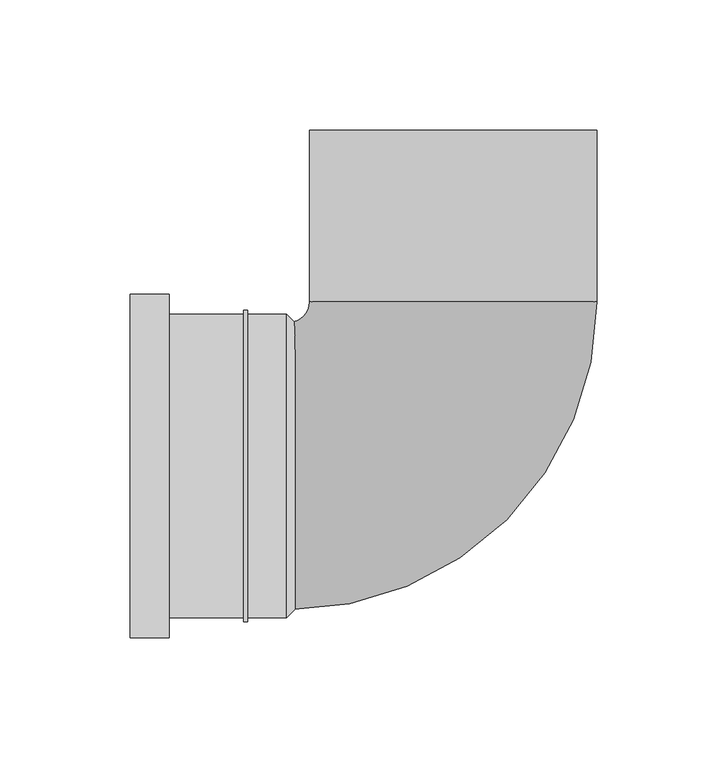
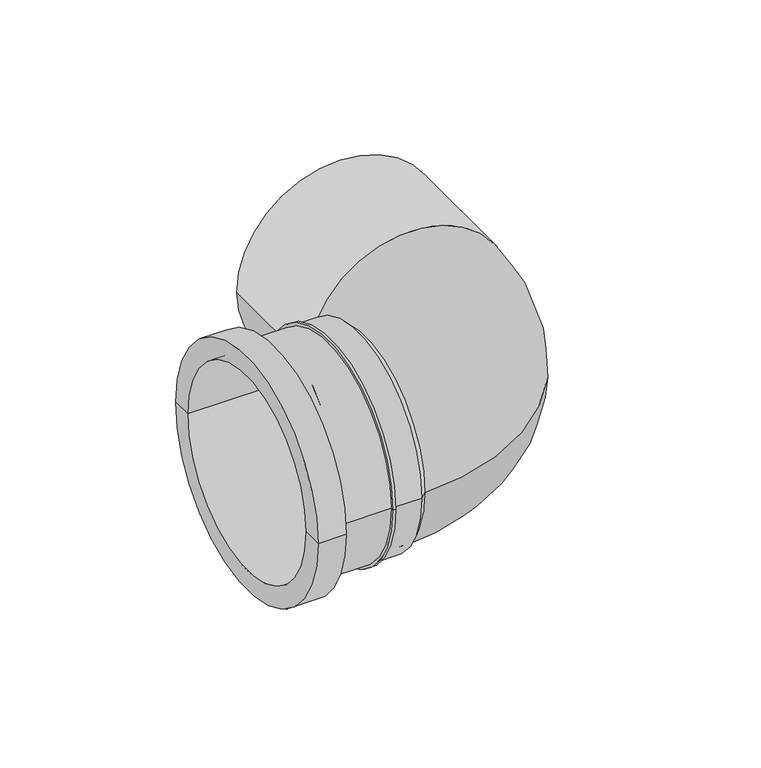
"""IFC4 building model written with IfcOpenShell, lengths in millimetres: pipe fitting geometry, UN_PIF_PP bend S-Sp_SH_PipeLife : Black, var. DN/OD (max. ø125, nested)."""

from ifc_helpers import new_model, si_unit, point, frame, origin, place, context, project, spatial, polyline, circle_curve, ellipse_curve, trimmed, source, transform, mapped, element, save
from ifc_brep_helpers import plane_surface, cylinder_surface, revolved_surface, advanced_brep


def pipe_fitting_667ac77e(model_context):
    return source(origin(), model_context, "Body", "AdvancedBrep", [
        advanced_brep(
        [(-60.7, 55.0, 0.0), (-60.7, -55.0, 0.0), (-64.0, -58.3, 0.0), (-64.0, 58.3, 0.0), (-124.2, 66.0, 0.0), (-124.2, -66.0, 0.0), (-124.2, -55.0, 0.0), (-124.2, 55.0, 0.0), (-109.15, 66.0, 0.0), (-109.15, -66.0, 0.0), (-109.15, 58.3, 0.0), (-109.15, -58.3, 0.0), (-80.6, 58.3, 0.0), (-80.6, -58.3, 0.0), (-80.6, 59.85, 0.0), (-80.6, -59.85, 0.0), (-79.05, 59.85, 0.0), (-79.05, -59.85, 0.0), (-79.05, 58.3, 0.0), (-79.05, -58.3, 0.0)],
        [
            (0, 1, circle_curve(frame((-60.7, 0.0, 0.0), z_axis=(-1.0, 0.0, 0.0), x_axis=(0.0, -1.0, 0.0)), 55.0)),
            (1, 2),
            (2, 3, circle_curve(frame((-64.0, 0.0, 0.0), z_axis=(1.0, 0.0, 0.0), x_axis=(0.0, -1.0, 0.0)), 58.3)),
            (3, 0),
            (1, 0, circle_curve(frame((-60.7, 0.0, 0.0), z_axis=(-1.0, 0.0, 0.0), x_axis=(0.0, -1.0, 0.0)), 55.0)),
            (3, 2, circle_curve(frame((-64.0, 0.0, 0.0), z_axis=(1.0, 0.0, 0.0), x_axis=(0.0, -1.0, 0.0)), 58.3)),
            (4, 5, circle_curve(frame((-124.2, 0.0, 0.0), z_axis=(-1.0, 0.0, 0.0), x_axis=(0.0, -1.0, 0.0)), 66.0)),
            (5, 6),
            (6, 7, circle_curve(frame((-124.2, 0.0, 0.0), z_axis=(1.0, 0.0, 0.0), x_axis=(0.0, -1.0, 0.0)), 55.0)),
            (7, 4),
            (5, 4, circle_curve(frame((-124.2, 0.0, 0.0), z_axis=(-1.0, 0.0, 0.0), x_axis=(0.0, -1.0, 0.0)), 66.0)),
            (7, 6, circle_curve(frame((-124.2, 0.0, 0.0), z_axis=(1.0, 0.0, 0.0), x_axis=(0.0, -1.0, 0.0)), 55.0)),
            (8, 9, circle_curve(frame((-109.15, 0.0, 0.0), z_axis=(-1.0, 0.0, 0.0), x_axis=(0.0, -1.0, 0.0)), 66.0)),
            (9, 5),
            (4, 8),
            (9, 8, circle_curve(frame((-109.15, 0.0, 0.0), z_axis=(-1.0, 0.0, 0.0), x_axis=(0.0, -1.0, 0.0)), 66.0)),
            (10, 11, circle_curve(frame((-109.15, 0.0, 0.0), z_axis=(-1.0, 0.0, 0.0), x_axis=(0.0, -1.0, 0.0)), 58.3)),
            (11, 9),
            (8, 10),
            (11, 10, circle_curve(frame((-109.15, 0.0, 0.0), z_axis=(-1.0, 0.0, 0.0), x_axis=(0.0, -1.0, 0.0)), 58.3)),
            (12, 13, circle_curve(frame((-80.6, 0.0, 0.0), z_axis=(-1.0, 0.0, 0.0), x_axis=(0.0, -1.0, 0.0)), 58.3)),
            (13, 11),
            (10, 12),
            (13, 12, circle_curve(frame((-80.6, 0.0, 0.0), z_axis=(-1.0, 0.0, 0.0), x_axis=(0.0, -1.0, 0.0)), 58.3)),
            (14, 15, circle_curve(frame((-80.6, 0.0, 0.0), z_axis=(-1.0, 0.0, 0.0), x_axis=(0.0, -1.0, 0.0)), 59.85)),
            (15, 13),
            (12, 14),
            (15, 14, circle_curve(frame((-80.6, 0.0, 0.0), z_axis=(-1.0, 0.0, 0.0), x_axis=(0.0, -1.0, 0.0)), 59.85)),
            (16, 17, circle_curve(frame((-79.05, 0.0, 0.0), z_axis=(-1.0, 0.0, 0.0), x_axis=(0.0, -1.0, 0.0)), 59.85)),
            (17, 15),
            (14, 16),
            (17, 16, circle_curve(frame((-79.05, 0.0, 0.0), z_axis=(-1.0, 0.0, 0.0), x_axis=(0.0, -1.0, 0.0)), 59.85)),
            (18, 19, circle_curve(frame((-79.05, 0.0, 0.0), z_axis=(-1.0, 0.0, 0.0), x_axis=(0.0, -1.0, 0.0)), 58.3)),
            (19, 17),
            (16, 18),
            (19, 18, circle_curve(frame((-79.05, 0.0, 0.0), z_axis=(-1.0, 0.0, 0.0), x_axis=(0.0, -1.0, 0.0)), 58.3)),
            (2, 19),
            (18, 3),
            (6, 1),
            (0, 7),
        ],
        [
            revolved_surface(polyline([(-64.0, -58.3, 0.0), (-60.7, -55.0, 0.0)]), (-124.2, 0.0, 0.0), (1.0, 0.0, 0.0)),
            plane_surface(frame((-124.2, 0.0, 0.0), z_axis=(-1.0, 0.0, 0.0), x_axis=(0.0, -1.0, 0.0))),
            cylinder_surface(frame((-124.2, 0.0, 0.0), z_axis=(1.0, 0.0, 0.0), x_axis=(0.0, -1.0, 0.0)), 66.0),
            plane_surface(frame((-109.15, 0.0, 0.0), z_axis=(1.0, 0.0, 0.0), x_axis=(0.0, -1.0, 0.0))),
            cylinder_surface(frame((-124.2, 0.0, 0.0), z_axis=(1.0, 0.0, 0.0), x_axis=(0.0, -1.0, 0.0)), 58.3),
            plane_surface(frame((-80.6, 0.0, 0.0), z_axis=(-1.0, 0.0, 0.0), x_axis=(0.0, -1.0, 0.0))),
            cylinder_surface(frame((-124.2, 0.0, 0.0), z_axis=(1.0, 0.0, 0.0), x_axis=(0.0, -1.0, 0.0)), 59.85),
            plane_surface(frame((-79.05, 0.0, 0.0), z_axis=(1.0, 0.0, 0.0), x_axis=(0.0, -1.0, 0.0))),
            revolved_surface(polyline([(-60.7, -55.0, 0.0), (-124.2, -55.0, 0.0)]), (-124.2, 0.0, 0.0), (1.0, 0.0, 0.0)),
        ],
        [
            (0, [[1, 2, 3, 4]]),
            (0, [[5, -4, 6, -2]]),
            (1, [[7, 8, 9, 10]]),
            (1, [[11, -10, 12, -8]]),
            (2, [[13, 14, -7, 15]]),
            (2, [[16, -15, -11, -14]]),
            (3, [[17, 18, -13, 19]]),
            (3, [[20, -19, -16, -18]]),
            (4, [[21, 22, -17, 23]]),
            (4, [[24, -23, -20, -22]]),
            (5, [[25, 26, -21, 27]]),
            (5, [[28, -27, -24, -26]]),
            (6, [[29, 30, -25, 31]]),
            (6, [[32, -31, -28, -30]]),
            (7, [[33, 34, -29, 35]]),
            (7, [[36, -35, -32, -34]]),
            (4, [[-3, 37, -33, 38]]),
            (4, [[-6, -38, -36, -37]]),
            (8, [[-9, 39, -1, 40]]),
            (8, [[-12, -40, -5, -39]]),
        ],
    ),
        advanced_brep(
        [(-64.0, -55.2, 0.0), (-64.0, 55.2, 0.0), (-63.0, -55.2, 0.0), (-63.0, 55.2, 0.0), (-55.2, 63.0, 0.0), (55.2, 63.0, 0.0), (55.2, 129.0, 0.0), (-55.2, 129.0, 0.0)],
        [
            (0, 1, circle_curve(frame((-64.0, 0.0, 0.0), z_axis=(-1.0, 0.0, 0.0), x_axis=(0.0, 1.0, 0.0)), 55.2)),
            (1, 0, circle_curve(frame((-64.0, 0.0, 0.0), z_axis=(-1.0, 0.0, 0.0), x_axis=(0.0, 1.0, 0.0)), 55.2)),
            (0, 2),
            (2, 3, circle_curve(frame((-63.0, 0.0, 0.0), z_axis=(-1.0, 0.0, 0.0), x_axis=(0.0, 1.0, 0.0)), 55.2)),
            (3, 1),
            (3, 2, circle_curve(frame((-63.0, 0.0, 0.0), z_axis=(-1.0, 0.0, 0.0), x_axis=(0.0, 1.0, 0.0)), 55.2)),
            (4, 3, circle_curve(frame((-63.0, 63.0, 0.0), z_axis=(0.0, 0.0, -1.0), x_axis=(0.0, -1.0, 0.0)), 7.8)),
            (2, 5, circle_curve(frame((-63.0, 63.0, 0.0), z_axis=(0.0, 0.0, 1.0), x_axis=(0.0, -1.0, 0.0)), 118.2)),
            (5, 4, circle_curve(frame((0.0, 63.0, 0.0), z_axis=(0.0, -1.0, 0.0), x_axis=(-1.0, 0.0, 0.0)), 55.2)),
            (4, 5, circle_curve(frame((0.0, 63.0, 0.0), z_axis=(0.0, -1.0, 0.0), x_axis=(-1.0, 0.0, 0.0)), 55.2)),
            (6, 7, circle_curve(frame((0.0, 129.0, 0.0), z_axis=(0.0, 1.0, 0.0), x_axis=(-1.0, 0.0, 0.0)), 55.2)),
            (7, 6, circle_curve(frame((0.0, 129.0, 0.0), z_axis=(0.0, 1.0, 0.0), x_axis=(-1.0, 0.0, 0.0)), 55.2)),
            (5, 6),
            (7, 4),
        ],
        [
            plane_surface(frame((-64.0, 0.0, 0.0), z_axis=(-1.0, 0.0, 0.0), x_axis=(0.0, 0.0, 1.0))),
            cylinder_surface(frame((-64.0, 0.0, 0.0), z_axis=(-1.0, 0.0, 0.0), x_axis=(0.0, 1.0, 0.0)), 55.2),
            revolved_surface(trimmed(ellipse_curve(frame((-63.0, 0.0, 0.0), z_axis=(-1.0, 0.0, 0.0), x_axis=(0.0, 1.0, 0.0)), 55.2, 55.2), [point((-63.0, -55.2, 0.0))], [point((-63.0, 55.2, 0.0))], True, "CARTESIAN"), (-63.0, 63.0, 0.0), (0.0, 0.0, 1.0)),
            revolved_surface(trimmed(ellipse_curve(frame((-63.0, 0.0, 0.0), z_axis=(-1.0, 0.0, 0.0), x_axis=(0.0, 1.0, 0.0)), 55.2, 55.2), [point((-63.0, 55.2, 0.0))], [point((-63.0, -55.2, 0.0))], True, "CARTESIAN"), (-63.0, 63.0, 0.0), (0.0, 0.0, 1.0)),
            plane_surface(frame((0.0, 129.0, 0.0), z_axis=(0.0, 1.0, 0.0), x_axis=(0.0, 0.0, 1.0))),
            cylinder_surface(frame((0.0, 63.0, 0.0), z_axis=(0.0, -1.0, 0.0), x_axis=(-1.0, 0.0, 0.0)), 55.2),
        ],
        [
            (0, [[1, 2]]),
            (1, [[-1, 3, 4, 5]]),
            (1, [[-2, -5, 6, -3]]),
            (2, [[7, -4, 8, 9]]),
            (3, [[-8, -6, -7, 10]]),
            (4, [[11, 12]]),
            (5, [[-9, 13, -12, 14]]),
            (5, [[-10, -14, -11, -13]]),
        ],
    ),
    ])


if __name__ == "__main__":
    model = new_model("IFC4")
    model_context = context("Model", 3, world=origin())
    ifc_project = project(units=[si_unit("LENGTHUNIT", "METRE", prefix="MILLI")], contexts=[model_context])
    site = spatial("IfcSite", under=ifc_project)
    building = spatial("IfcBuilding", under=site)
    placement = place(None, origin())
    pipe_fitting_shape = pipe_fitting_667ac77e(model_context)
    element("IfcPipeFitting", 1, ObjectType="UN_PIF_PP bend S-Sp_SH_PipeLife : Black, var. DN/OD (max. ø125, nested)", at=placement, inside=building, context=model_context, shape_type="MappedRepresentation", body=[
        mapped(pipe_fitting_shape, transform((0.0, 0.0, 0.0), x_axis=(1.0, 0.0, 0.0), y_axis=(0.0, 1.0, 0.0), z_axis=(0.0, 0.0, 1.0))),
    ])
    save(model, "model.ifc")
